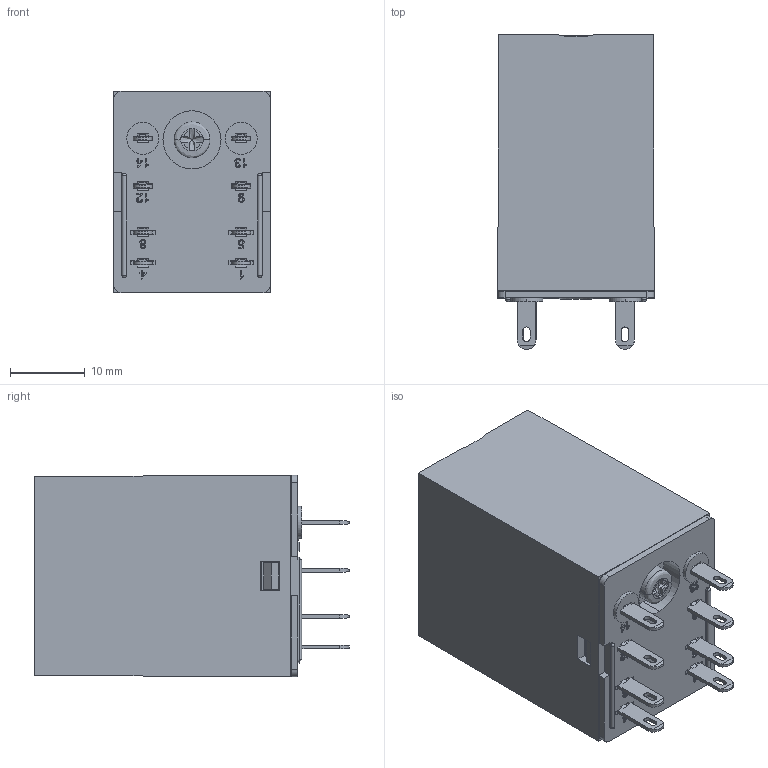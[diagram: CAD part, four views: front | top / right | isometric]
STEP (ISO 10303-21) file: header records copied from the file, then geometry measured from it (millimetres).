
FILE_DESCRIPTION (( 'STEP AP203' ), '1' );
FILE_NAME ('RKM2C 俋倛.STEP', '2023-01-14T07:59:50', ( '' ), ( '' ), 'SwSTEP 2.0', 'SolidWorks 2018', '' );
FILE_SCHEMA (( 'CONFIG_CONTROL_DESIGN' ));
Length unit declared in the file: millimetre
Products named in the file (1): RKM2C 俋倛
Bounding box: 21 x 42.19 x 27 mm (x, y, z)
Volume: 19651.6 mm3; surface area: 5375.4 mm2
Topology: 1 solids, 1 shells, 648 faces, 1722 edges, 1122 vertices
Faces by surface type: plane 471, cylinder 86, bspline 75, cone 8, sphere 4, torus 4
Entity records: 23986 total; most frequent: CARTESIAN_POINT 8286, ORIENTED_EDGE 3428, DIRECTION 2838, EDGE_CURVE 1714, VECTOR 1316, LINE 1316, VERTEX_POINT 1118, AXIS2_PLACEMENT_3D 761
